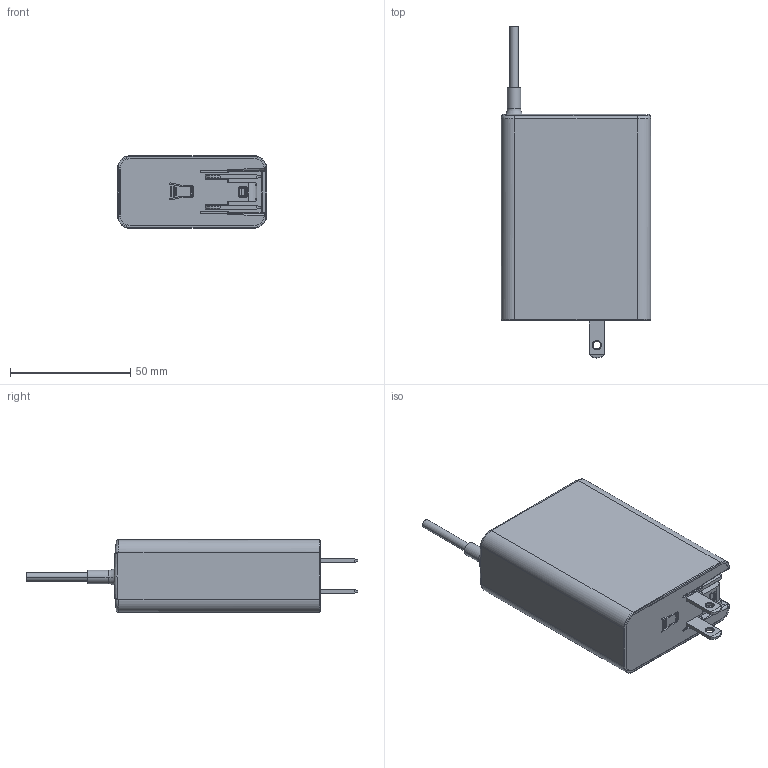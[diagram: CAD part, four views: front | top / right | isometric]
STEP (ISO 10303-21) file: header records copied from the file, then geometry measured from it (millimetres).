
FILE_DESCRIPTION(('Creo Elements/Direct Modeling STEP Export'),'2;1');
FILE_NAME('NGE90U.stp','2025-09-30T10:56:40',(''),(''),'Creo Elements/Direct Modeling STEP processor for AP214 (Solid Model)','Creo Elements/Direct Modeling 19.0G 27-Nov-2017 (C) Parametric Technology GmbH','');
FILE_SCHEMA(('AUTOMOTIVE_DESIGN { 1 0 10303 214 1 1 1 1 }'));
Length unit declared in the file: millimetre
Products named in the file (232): 零件1; _X2_96F64EF6_X0_1-4600.PRT; _X2_96F64EF6_X0_1-4930.ASM; CASE_X2_524D84CB_X0__PR-2848140.PRT; JJ_PRT-57290_ASM_ASM_AS-2847900.PRT; P1_PRT-37090_ASM_ASM_AS-2847660.PRT; P1_1-1021660_PRT-25790_-2847420.PRT; P1_2_PRT-17320_ASM_ASM_-2847180.PRT; RPA_PRT_1_1_1_PRT-13290-2846240.PRT; RPA_PRT_1_1_1_PRT-13900-2846900.ASM; RPA_PRT_1_1_1_PRT_5_ASM-2846570.ASM; RPA_PRT_1_1_P1_1_PRT_PR-2840470.PRT; WW_1_1_PRT-6150_PRT_PRT-2839000.PRT; WW_1_1_PRT-6480_ASM_ASM-2839330.ASM; NGE-100______STP_ASM_AS-2848380.ASM; NGE-100_X2_8F6C63625934-2848980.ASM; NGE-100______STP_1.ASM; CASE_X2_524D84CB_X0__PR-2831240.PRT; JJ_PRT-57290_ASM_ASM_AS-2831000.PRT; P1_PRT-37090_ASM_ASM_AS-2830760.PRT; P1_1-1021660_PRT-25790_-2830520.PRT; P1_2_PRT-17320_ASM_ASM_-2830280.PRT; RPA_PRT_1_1_1_PRT-13290-2829340.PRT; RPA_PRT_1_1_1_PRT-13900-2830000.ASM; RPA_PRT_1_1_1_PRT_5_ASM-2829670.ASM; RPA_PRT_1_1_P1_1_PRT_PR-2823570.PRT; WW_1_1_PRT-6150_PRT_PRT-2822100.PRT; WW_1_1_PRT-6480_ASM_ASM-2822430.ASM; NGE-100______STP_ASM_AS-2831480.ASM; NGE-100_X2_8F6C63625934-2832080.ASM; NGE-100______STP.ASM; 1XX3NGE90-B_STP.PRT; 1XX3NGE100-F_PRT-132970_-132790.PRT; 1XX3NGE100-F_PRT-132970_-133190.ASM; 1XX3NGE100-F_STP.ASM; CASE_X2_672C9AD4_X0__PRT-51190_.PRT; CASE_X2_672C9AD4_X0__PRT-51590_.ASM; NGE-100___STP_X2_4E3B4F53_X0_.ASM; _X2_88C5914D_X0_1.PRT; _X2_656370ED7247_X0_-2592560.ASM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
Assembly tree (291 placements, depth 11):
  零件1
  NGE90U.stp
    NGE90.ASM
      1_STP.ASM
        _X2_9EA662C9656370ED7247_X0__AS.PRT
      NGE-12___B_STP.PRT
      NGE-90-2651590.ASM
        NGE-90-2535110.ASM
          GRR_STP.ASM
            GRR_PRT.PRT
          _X2_88C5914D_X0_2.PRT
          _X2_656370ED7247_X0_-2429730.ASM
            1759143424_ASM.PRT
          _X2_656370ED7247_X0_2.PRT
          NGE100-02-13_-____2__STP.PRT
          NGE90-R0-0905_STEP.ASM
            PCB_ASM.ASM
              BOARD_PRT.PRT
              D1_ASM.ASM
                2CDX-SMA_PRT.PRT
              C5_ASM.ASM
                690514120_ASM.PRT
                690520352_ASM.PRT
                690520504_ASM.PRT
                690520656_ASM_11.PRT  x2
                690520808_ASM_10.PRT  x2
                690520960_ASM_9.PRT  x2
              C114_ASM.PRT
              C115_ASM.PRT
              R15_ASM.ASM
                690513208_ASM.PRT
              C8_ASM.PRT
              C105_ASM.ASM
                690521568_ASM.PRT
                690521720_ASM_5.PRT  x2
                690521872_ASM.PRT
                778279440_ASM.PRT
              ZNR1_ASM.PRT
              D105_ASM.ASM
                778278000_ASM.PRT  x2
                778279600_ASM.PRT
                778279760_ASM.PRT
              D103_ASM.ASM
                2CUX-SOD123_ASM.PRT
                778278160_ASM.PRT
                778278000_ASM.PRT  x2
              D100_ASM.ASM
                2CDX-SOD123_PRT.PRT
              U101_ASM.PRT
              U4_ASM.PRT
              U3_ASM.PRT
              U2_ASM.ASM
                2CUX-SOP-10_SSO10__ASM.ASM
                  USER_LIBRARY-SSO10_FUSION_ASM.PRT
              U5_ASM.PRT
              SHR1_ASM.PRT
              R125_ASM.ASM
                690510320_ASM.PRT
              R124_ASM.ASM
                690510016_ASM.PRT
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Bounding box: 62 x 137.81 x 30.2 mm (x, y, z)
Volume: 45483 mm3; surface area: 55309.1 mm2
Topology: 14 solids, 16 shells, 956 faces, 2506 edges, 1633 vertices
Faces by surface type: plane 549, cylinder 292, cone 46, bspline 38, torus 31
Entity records: 42607 total; most frequent: CARTESIAN_POINT 9420, DIRECTION 4927, ORIENTED_EDGE 4828, EDGE_CURVE 2414, AXIS2_PLACEMENT_3D 1665, VECTOR 1597, LINE 1597, VERTEX_POINT 1577
